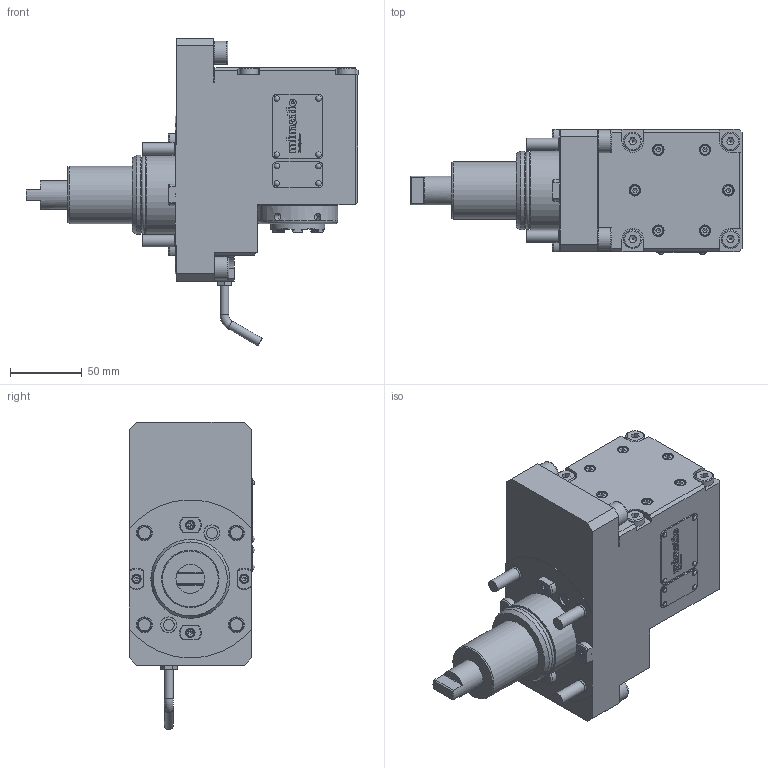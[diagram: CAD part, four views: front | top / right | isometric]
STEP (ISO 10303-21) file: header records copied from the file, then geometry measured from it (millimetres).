
FILE_DESCRIPTION(/* description */ (''),/* implementation_level */ '2;1');
FILE_NAME(/* name */ '191437-F',/* time_stamp */ '2021-12-07T13:12:03+01:00',/* author */ (''),/* organization */ (''),/* preprocessor_version */ 'ST-DEVELOPER v16.5',/* originating_system */ 'HiCAD 2017 2201.0 Build 268',/* authorisation */ '');
FILE_SCHEMA (('AUTOMOTIVE_DESIGN { 1 0 10303 214 1 1 1 1 }'));
Products named in the file (2): Root; Teil
Assembly tree (1 placements, depth 2):
  Root
    Teil
Bounding box: 231 x 87.3 x 213.97 mm (x, y, z)
Volume: 1455533 mm3; surface area: 127388.7 mm2
Topology: 9 solids, 22 shells, 1061 faces, 2629 edges, 1717 vertices
Faces by surface type: plane 694, cylinder 229, cone 52, torus 40, bspline 38, sphere 8
Full cylindrical faces by diameter (mm): 2 x8, 2.2 x8, 2.5 x4, 3 x4, 3.4 x4, 4 x3, 5.1 x6, 5.5 x4, 6 x2, 6.466 x1, 6.5 x4, 7 x6, 7.65 x2, 8 x10, 8.5 x4, 11 x4, 11.01 x2, 11.1 x2, 13 x4, 16 x4, 20 x3, 23.529 x1, 24 x1, 27 x2, 29 x2, 29.4 x1, 37.5 x1, 38 x1, 38.5 x1, 40 x2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
Entity records: 59476 total; most frequent: CARTESIAN_POINT 12547, DIRECTION 4808, PRESENTATION_STYLE_ASSIGNMENT 4683, COLOUR_RGB 4683, DRAUGHTING_PRE_DEFINED_CURVE_FONT 4682, CURVE_STYLE 4682, OVER_RIDING_STYLED_ITEM 4682, ORIENTED_EDGE 4682
